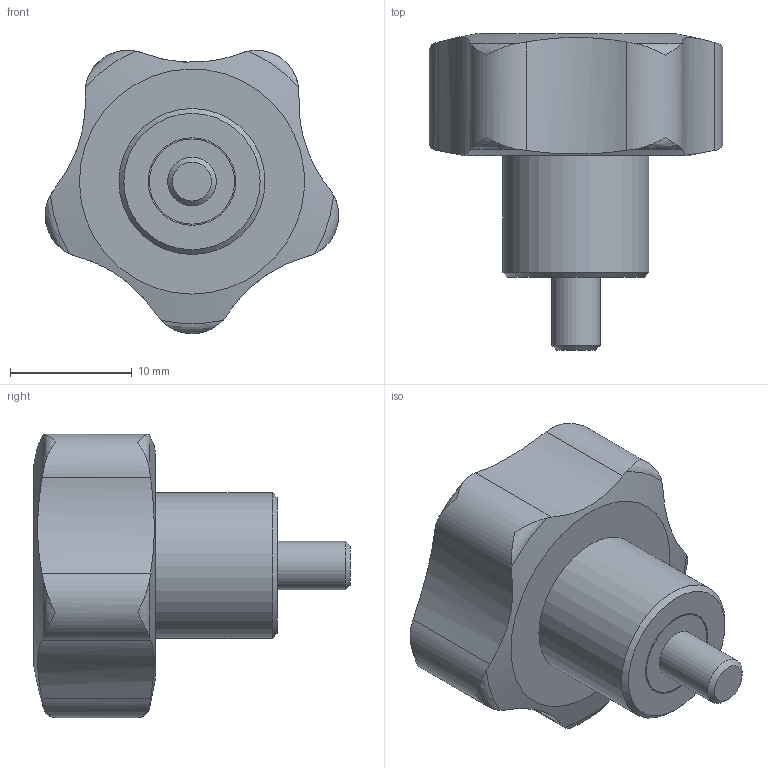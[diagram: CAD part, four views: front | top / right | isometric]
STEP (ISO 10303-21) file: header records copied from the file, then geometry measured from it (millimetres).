
FILE_DESCRIPTION( ( 'STEP AP203' ), '1' );
FILE_NAME( 'C:/Temp/Ganter_Step_05_03_2020/data/2_2/gn_5337_4/gn_5337_4_s/Star knob GN 5337.4-25-M4-6.stp', '2020-03-05T12:09:38', ( 'License CC BY-ND 4.0' ), ( 'CADENAS' ), ' ', 'PARTsolutions', ' ' );
FILE_SCHEMA( ( 'CONFIG_CONTROL_DESIGN' ) );
Length unit declared in the file: millimetre
Products named in the file (1): _Star knob GN 5337.4-25-M4-6
Bounding box: 24.11 x 26 x 23.28 mm (x, y, z)
Volume: 4890.7 mm3; surface area: 1900.7 mm2
Topology: 1 solids, 1 shells, 34 faces, 95 edges, 66 vertices
Faces by surface type: cylinder 14, torus 10, plane 5, cone 3, bspline 1, sphere 1
Full cylindrical faces by diameter (mm): 4 x1, 7 x1, 7.2 x1, 12 x1
Entity records: 1417 total; most frequent: CARTESIAN_POINT 629, ORIENTED_EDGE 164, DIRECTION 122, EDGE_CURVE 82, VERTEX_POINT 63, AXIS2_PLACEMENT_3D 56, B_SPLINE_CURVE_WITH_KNOTS 50, EDGE_LOOP 46
